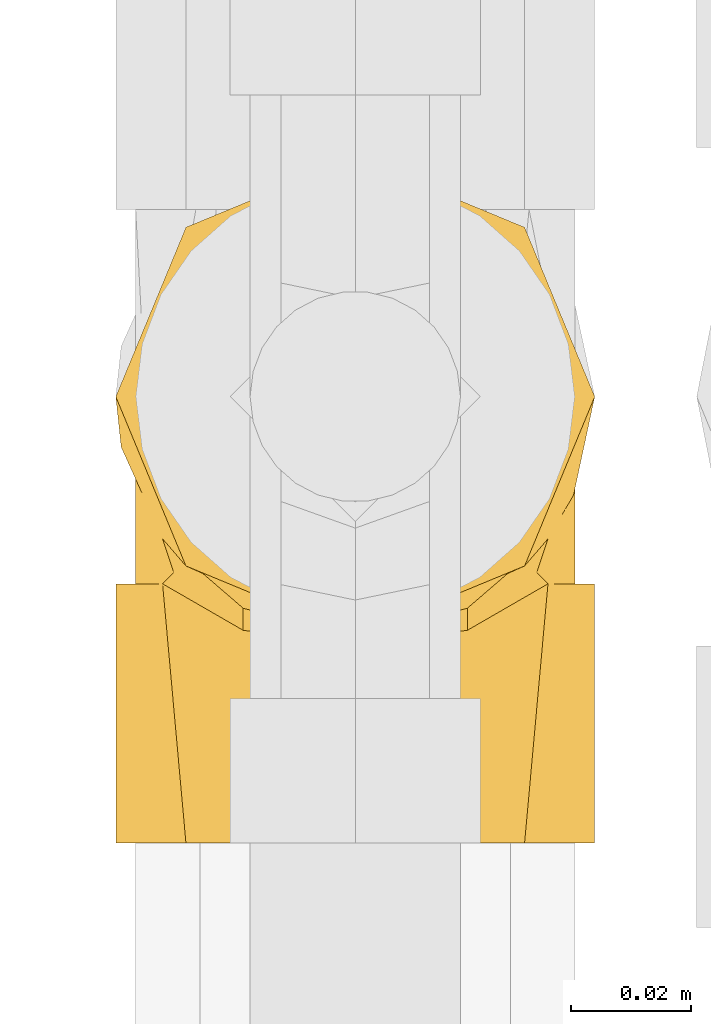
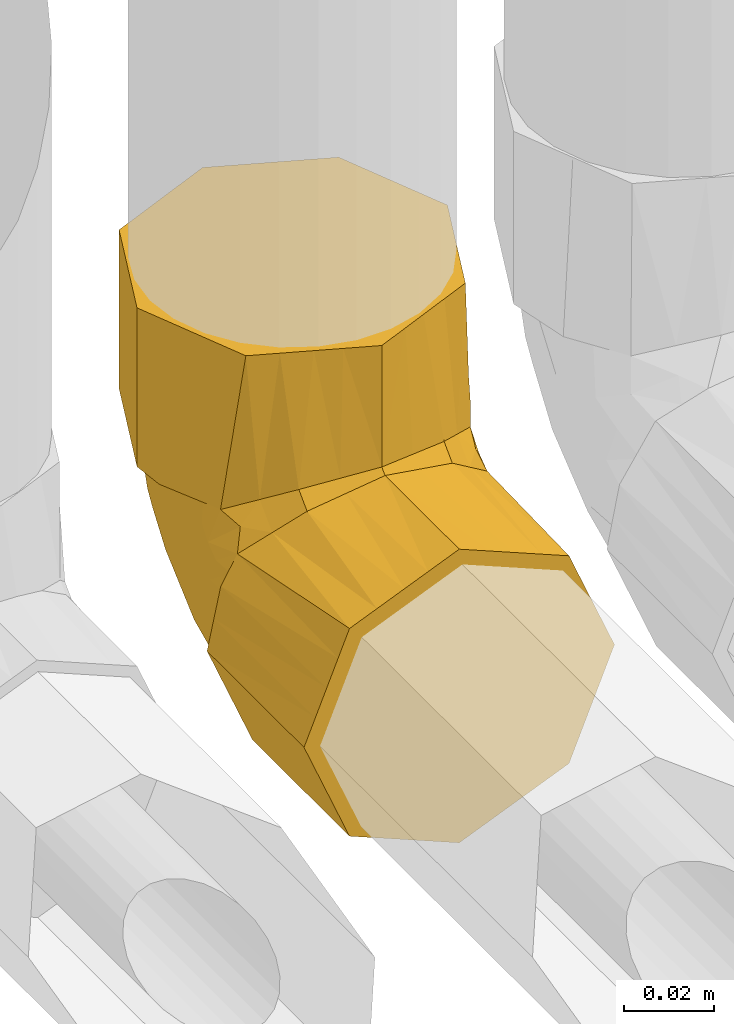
# One storey, part 237 of 652: 1 covering.
"""IFC2X3 building model written with IfcOpenShell, lengths in millimetres."""

from ifc_helpers import new_model, entity, si_unit, converted_unit, direction, frame, origin, place, context, subcontext, project, spatial, faceted_brep, material, type_object, element, save


model = new_model("IFC2X3")

# Units and contexts
model_context = context("Model", 3, precision=0.01, world=frame((0.0, 0.0, 308426.39999999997)), true_north=direction((6.123233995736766e-17, 1.0)))
plan_context = context("Plan", 3, precision=0.01, world=frame((0.0, 0.0, 308426.39999999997)), true_north=direction((6.123233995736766e-17, 1.0)))
body_context = subcontext(model_context, "Body", "Model", "MODEL_VIEW")
ifc_project = project(units=[si_unit("LENGTHUNIT", "METRE", prefix="MILLI"), si_unit("AREAUNIT", "SQUARE_METRE"), si_unit("VOLUMEUNIT", "CUBIC_METRE"), converted_unit("PLANEANGLEUNIT", "DEGREE", entity("IfcPlaneAngleMeasure", 0.017453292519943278), si_unit("PLANEANGLEUNIT", "RADIAN"), dimensions=[0, 0, 0, 0, 0, 0, 0])], contexts=[model_context, plan_context])

# Site, building, storey
site_placement = place(None, origin())
site = spatial("IfcSite", under=ifc_project, at=site_placement, Name="Default", CompositionType="ELEMENT")
building_placement = place(site_placement, origin())
building = spatial("IfcBuilding", under=site, at=building_placement, CompositionType="ELEMENT")
storey_placement = place(building_placement, frame((0.0, 0.0, 1730.6999999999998)))
storey = spatial("IfcBuildingStorey", under=building, at=storey_placement, Name="EG_Produktion_FFB", CompositionType="ELEMENT", Elevation=1730.6999999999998)

# Covering
ifc_material = material(Name="Dämmung - Armaflex-Schlauch")
covering_type = type_object("IfcCoveringType", Name="Rohrdämmung außen:Armaflex-Schlauch", PredefinedType="INSULATION")
covering_placement = place(storey_placement, frame((76838.64672776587, 51563.94410396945, 2358.6467277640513)))
element("IfcCovering", 1, at=covering_placement, inside=storey, type_object=covering_type, material=ifc_material, Name="Rohrdämmung außen:Armaflex-Schlauch", ObjectType="Rohrdämmung außen:Armaflex-Schlauch", PredefinedType="INSULATION", context=body_context, shape_type="Brep", body=[
    faceted_brep([(6.083537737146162, 43.00574999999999, 55.29344606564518), (5.617026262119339, 43.00574999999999, 51.30566939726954), (4.890772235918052, 43.00574999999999, 45.09759303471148), (8.3318644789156, 43.00574999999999, 37.46172977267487), (11.772956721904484, 43.00574999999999, 29.82586651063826), (14.99997398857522, 43.00574999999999, 22.665040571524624), (18.22699125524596, 43.00574999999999, 15.504214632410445), (29.790131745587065, 43.00574999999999, 11.253230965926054), (41.35327223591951, 43.00574999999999, 7.002247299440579), (48.56686113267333, 43.00574999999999, 10.651622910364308), (55.78045002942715, 43.00574999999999, 14.300998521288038), (62.994038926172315, 43.00574999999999, 17.950374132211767), (70.2076278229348, 43.00574999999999, 21.599749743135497), (72.58441730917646, 43.00574999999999, 28.940491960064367), (75.20009477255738, 43.00574999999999, 37.01904249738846), (77.81577223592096, 43.00574999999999, 45.09759303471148), (77.08951820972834, 43.00574999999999, 51.305669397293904), (76.62300673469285, 43.00574999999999, 55.29344606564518), (74.98470757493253, 43.00574999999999, 60.125242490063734), (73.34640841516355, 43.00574999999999, 64.9570389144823), (76.7834442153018, 43.00574999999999, 57.33961263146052), (80.22048001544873, 43.00574999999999, 49.7221863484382), (81.11127223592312, 43.00574999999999, 41.35327223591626), (77.79931566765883, 43.00574999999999, 33.35750177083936), (75.28884793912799, 43.00574999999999, 27.29669653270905), (72.37763579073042, 43.00574999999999, 20.26840868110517), (69.46642364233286, 43.00574999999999, 13.240120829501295), (62.43813579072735, 43.00574999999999, 10.328908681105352), (55.40984793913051, 43.00574999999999, 7.417696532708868), (48.38156008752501, 43.00574999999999, 4.506484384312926), (41.35327223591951, 43.00574999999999, 1.5952722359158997), (33.35750170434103, 43.00574999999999, 4.907228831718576), (27.296696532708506, 43.00574999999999, 7.417696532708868), (20.26840868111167, 43.00574999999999, 10.328908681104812), (13.240120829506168, 43.00574999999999, 13.240120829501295), (10.3289086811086, 43.00574999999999, 20.26840868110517), (7.417696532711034, 43.00574999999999, 27.296696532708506), (4.907228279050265, 43.00574999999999, 33.35750303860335), (1.5952722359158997, 43.00574999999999, 41.35327223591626), (3.3544466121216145, 43.00574999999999, 49.52924681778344), (5.113620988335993, 43.00574999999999, 57.70522139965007), (9.36013605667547, 43.00574999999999, 64.9570389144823), (7.721836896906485, 43.00574999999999, 60.12524249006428), (69.46642364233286, 0.0, 69.46642364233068), (62.43813579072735, 0.0, 72.37763579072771), (55.40984793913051, 0.0, 75.28884793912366), (49.349042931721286, 0.0, 77.79931557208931), (41.35327223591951, 0.0, 81.11127223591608), (33.357503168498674, 0.0, 77.79931624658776), (27.296696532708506, 0.0, 75.28884793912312), (20.26840868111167, 0.0, 72.37763579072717), (13.240120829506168, 0.0, 69.46642364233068), (10.3289086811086, 0.0, 62.43813579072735), (7.417696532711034, 0.0, 55.40984793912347), (4.506484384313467, 0.0, 48.381560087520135), (1.5952722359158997, 0.0, 41.35327223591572), (4.506484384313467, 0.0, 34.32498438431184), (7.417696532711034, 0.0, 27.296696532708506), (10.3289086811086, 0.0, 20.26840868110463), (13.240120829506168, 0.0, 13.240120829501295), (20.26840868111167, 0.0, 10.328908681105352), (27.296696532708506, 0.0, 7.417696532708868), (34.32498438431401, 0.0, 4.506484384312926), (41.35327223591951, 0.0, 1.5952722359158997), (48.38156008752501, 0.0, 4.506484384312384), (55.40984793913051, 0.0, 7.417696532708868), (62.43813579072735, 0.0, 10.328908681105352), (69.46642364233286, 0.0, 13.240120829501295), (74.4873587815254, 0.0, 25.361730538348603), (77.79931550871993, 0.0, 33.35750138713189), (81.11127223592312, 0.0, 41.35327223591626), (78.20006008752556, 0.0, 48.381560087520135), (75.28884793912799, 0.0, 55.40984793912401), (72.37763579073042, 0.0, 62.43813579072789), (66.6493605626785, 39.14313917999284, 70.72483298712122), (41.35327223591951, 32.887345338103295, 81.11127223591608), (50.65279247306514, 34.0839368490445, 78.80194964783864), (59.952312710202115, 35.28052835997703, 76.49262705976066), (55.3025525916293, 34.68223260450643, 77.64728835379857), (16.057183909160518, 39.14313917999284, 70.72483298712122), (32.053751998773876, 34.0839368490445, 78.80194964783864), (22.754231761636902, 35.28052835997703, 76.49262705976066), (37.04480775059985, 33.441725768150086, 80.04136388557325), (1.5952722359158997, 74.08425000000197, 72.43177223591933), (4.907228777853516, 82.0800204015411, 72.43177223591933), (7.417696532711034, 88.14082570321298, 72.43177223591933), (10.3289086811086, 95.16911355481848, 72.43177223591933), (13.240120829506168, 102.19740140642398, 72.43177223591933), (20.26840868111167, 105.10861355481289, 72.43177223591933), (27.296696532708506, 108.01982570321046, 72.43177223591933), (33.357503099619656, 110.53029398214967, 72.43177223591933), (41.35327223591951, 113.84225000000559, 72.43177223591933), (49.34904239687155, 110.53029355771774, 72.43177223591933), (55.40984793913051, 108.01982570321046, 72.43177223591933), (62.43813579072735, 105.10861355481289, 72.43177223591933), (69.46642364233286, 102.19740140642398, 72.43177223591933), (72.37763579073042, 95.16911355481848, 72.43177223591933), (75.28884793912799, 88.14082570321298, 72.43177223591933), (78.20006008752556, 81.11253785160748, 72.43177223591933), (81.11127223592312, 74.08425000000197, 72.43177223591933), (79.3520811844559, 65.90823846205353, 72.43177223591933), (77.59289013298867, 57.73222692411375, 72.43177223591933), (73.34640841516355, 50.48048332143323, 72.43177223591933), (74.98470757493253, 55.31227974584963, 72.43177223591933), (76.62300673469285, 60.14407617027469, 72.43177223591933), (77.08951812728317, 64.13185213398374, 72.43177223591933), (77.45264518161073, 67.23589066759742, 72.43177223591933), (77.81577223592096, 70.33992920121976, 72.43177223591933), (74.48171748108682, 77.73827380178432, 72.43177223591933), (71.14766272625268, 85.13661840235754, 72.43177223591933), (67.81360797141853, 92.53496300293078, 72.43177223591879), (64.47955321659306, 99.93330760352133, 72.43177223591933), (58.69798297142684, 102.05879943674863, 72.43177223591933), (52.916412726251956, 104.18429126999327, 72.43177223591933), (41.35327223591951, 108.4352749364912, 72.43177223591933), (34.139683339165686, 104.78589932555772, 72.43177223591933), (26.926094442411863, 101.1365237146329, 72.43177223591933), (19.712505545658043, 97.48714810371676, 72.43177223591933), (12.498916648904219, 93.83777249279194, 72.43177223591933), (10.596880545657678, 87.9633116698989, 72.43177223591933), (8.694844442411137, 82.08885084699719, 72.43177223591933), (4.890772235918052, 70.33992920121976, 72.43177223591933), (5.253899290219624, 67.23589066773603, 72.43177223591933), (5.617026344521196, 64.1318521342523, 72.43177223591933), (6.083537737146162, 60.14407617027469, 72.43177223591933), (7.721836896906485, 55.31227974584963, 72.43177223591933), (9.36013605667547, 50.48048332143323, 72.43177223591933), (5.923104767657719, 58.097888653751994, 72.43177223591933), (2.486073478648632, 65.71529398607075, 72.43177223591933), (78.20006008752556, 81.11253785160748, 115.43752223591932), (75.28884793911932, 88.14082570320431, 115.43752223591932), (72.37763579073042, 95.16911355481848, 115.43752223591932), (69.46642364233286, 102.19740140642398, 115.43752223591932), (57.34481362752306, 107.21833667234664, 115.43752223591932), (49.349042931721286, 110.53029333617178, 115.43752223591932), (41.35327223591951, 113.84225000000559, 115.43752223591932), (34.32498438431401, 110.93103785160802, 115.43752223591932), (27.296696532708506, 108.01982570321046, 115.43752223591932), (20.26840868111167, 105.10861355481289, 115.43752223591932), (13.240120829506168, 102.19740140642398, 115.43752223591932), (10.3289086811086, 95.16911355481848, 115.43752223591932), (7.417696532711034, 88.14082570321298, 115.43752223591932), (4.506484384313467, 81.11253785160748, 115.43752223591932), (1.5952722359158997, 74.08425000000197, 115.43752223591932), (4.506484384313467, 67.05596214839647, 115.43752223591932), (7.417696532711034, 60.02767429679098, 115.43752223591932), (10.3289086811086, 52.99938644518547, 115.43752223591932), (13.240120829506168, 45.971098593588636, 115.43752223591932), (20.26840868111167, 43.05988644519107, 115.43752223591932), (27.296696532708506, 40.1486742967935, 115.43752223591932), (33.35750137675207, 37.63820673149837, 115.43752223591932), (41.35327223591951, 34.32625000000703, 115.43752223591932), (49.34904132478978, 37.638205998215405, 115.43752223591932), (55.409847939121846, 40.1486742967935, 115.43752223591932), (62.43813579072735, 43.05988644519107, 115.43752223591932), (69.46642364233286, 45.971098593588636, 115.43752223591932), (72.37763579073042, 52.99938644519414, 115.43752223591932), (75.28884793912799, 60.02767429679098, 115.43752223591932), (77.7993155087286, 66.08847915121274, 115.43752223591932), (81.11127223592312, 74.08425000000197, 115.43752223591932), (41.35327223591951, 34.32624999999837, 82.55017689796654), (50.65279247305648, 36.63557258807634, 81.3535853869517), (59.95231271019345, 38.94489517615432, 80.15699387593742), (49.97020104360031, 36.466066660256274, 81.44141605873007), (66.6493605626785, 44.71268924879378, 76.29438305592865), (16.057183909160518, 44.71268924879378, 76.29438305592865), (32.05375199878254, 36.63557258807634, 81.3535853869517), (22.754231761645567, 38.94489517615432, 80.15699387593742), (32.736343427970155, 36.46606666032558, 81.44141605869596), (37.04480783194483, 35.396158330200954, 81.99579647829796), (70.58570371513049, 87.24563107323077, 57.27953829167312), (70.84194655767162, 59.25537915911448, 29.196562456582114), (74.32849001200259, 64.7856822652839, 39.99677644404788), (77.81577223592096, 54.444618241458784, 51.665813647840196), (77.00211431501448, 57.53683977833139, 44.427643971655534), (76.88844933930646, 69.54060567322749, 55.10574679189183), (68.42603953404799, 78.6127307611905, 40.74800020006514), (65.42597622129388, 63.63300022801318, 24.86974949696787), (41.35327223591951, 91.69909945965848, 37.51558616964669), (49.423246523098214, 97.09379966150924, 46.80229075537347), (49.76955400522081, 80.92903244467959, 27.55975639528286), (41.35327223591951, 55.17908736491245, 14.630582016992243), (50.78343827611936, 61.71355754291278, 14.918451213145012), (62.18567496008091, 81.91063946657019, 36.22638004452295), (77.81577223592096, 68.51539346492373, 70.04816151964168), (77.81577223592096, 66.69085772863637, 67.66455080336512), (77.81577223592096, 63.04178625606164, 62.897329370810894), (77.81577223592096, 58.74320224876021, 57.281571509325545), (65.52092940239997, 92.2422534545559, 54.940238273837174), (59.20806438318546, 71.24210235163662, 24.562664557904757), (60.22410783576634, 57.40923450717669, 17.335133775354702), (58.19488232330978, 92.66510975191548, 45.83903622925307), (55.853767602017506, 84.60868936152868, 33.94124595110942), (41.35327223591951, 100.06718719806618, 54.97367920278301), (41.35327223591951, 100.62176107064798, 56.13067021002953), (41.35327223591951, 67.3524247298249, 22.258916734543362), (41.35327223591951, 73.31662804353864, 25.996342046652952), (41.35327223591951, 79.52576209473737, 29.887251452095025), (55.751720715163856, 100.49812847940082, 57.754577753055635), (73.79715375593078, 78.60346314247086, 53.084365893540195), (41.35327223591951, 58.16118902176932, 16.499294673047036), (77.81577223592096, 48.25776996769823, 48.11331321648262), (77.16648559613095, 48.611422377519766, 55.8898031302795), (75.95462844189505, 47.90470472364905, 61.14799943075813), (41.35327223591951, 33.63371593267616, 81.80380630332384), (76.0357200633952, 51.459156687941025, 63.97836606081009), (71.49570768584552, 44.908883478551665, 70.52863846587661), (75.95462822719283, 54.28952252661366, 67.53281820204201), (77.15152320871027, 59.518701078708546, 66.9208805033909), (5.540058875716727, 48.611422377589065, 55.88980313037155), (4.890772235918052, 48.257769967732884, 48.1133132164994), (11.210837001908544, 44.90888338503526, 70.52863882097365), (6.670824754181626, 51.45915593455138, 63.97836681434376), (6.7519160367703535, 47.90470469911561, 61.14799943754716), (4.890772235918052, 58.743202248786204, 57.281571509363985), (6.7519162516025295, 54.28952251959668, 67.53281822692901), (5.555021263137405, 59.51870107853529, 66.92088050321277), (4.890772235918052, 66.69085772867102, 67.66455080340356), (4.890772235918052, 54.444618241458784, 51.665813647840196), (4.890772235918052, 68.51539346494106, 70.04816151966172), (4.890772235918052, 63.041786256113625, 62.89732937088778), (7.90055709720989, 59.61186262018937, 37.54867793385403), (11.144292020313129, 58.14792793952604, 29.753616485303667), (6.907352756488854, 76.41301603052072, 58.23539538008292), (31.821832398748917, 83.37405497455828, 30.21968406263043), (16.763579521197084, 79.87091005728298, 38.43788537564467), (9.117077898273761, 74.44381850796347, 47.150672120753), (14.598856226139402, 86.90253298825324, 50.85120006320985), (5.892051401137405, 66.09863101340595, 50.71304963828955), (5.886693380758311, 55.98858201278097, 42.398132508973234), (15.338625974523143, 67.81026209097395, 29.782072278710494), (22.521459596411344, 86.6462536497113, 39.60413641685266), (31.617498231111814, 98.35278997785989, 49.78456672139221), (22.69544496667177, 96.79734628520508, 54.986101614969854), (9.61944594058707, 83.33506495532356, 58.13081411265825), (24.56861790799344, 64.80279365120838, 19.784818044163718), (21.067876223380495, 74.76137203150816, 29.107014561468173), (16.734184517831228, 55.99524376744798, 21.418901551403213), (33.08278710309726, 68.64794002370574, 18.405512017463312)], [[[0, 1, 2, 3, 4, 5, 6, 7, 8, 9, 10, 11, 12, 13, 14, 15, 16, 17, 18, 19, 20, 21, 22, 23, 24, 25, 26, 27, 28, 29, 30, 31, 32, 33, 34, 35, 36, 37, 38, 39, 40, 41, 42]], [[43, 44, 45, 46, 47, 48, 49, 50, 51, 52, 53, 54, 55, 56, 57, 58, 59, 60, 61, 62, 63, 64, 65, 66, 67, 68, 69, 70, 71, 72, 73]], [[44, 43, 74]], [[75, 47, 46]], [[76, 75, 46]], [[45, 77, 78, 76]], [[44, 74, 77]], [[72, 20, 73]], [[71, 21, 72]], [[43, 19, 74]], [[77, 45, 44]], [[72, 21, 20]], [[71, 22, 21]], [[45, 76, 46]], [[71, 70, 22]], [[73, 20, 19]], [[19, 43, 73]], [[23, 22, 70, 69, 68, 67, 26, 25, 24]], [[26, 67, 66, 65, 64, 63, 30, 29, 28, 27]], [[38, 37, 36, 35, 34, 59, 58, 57, 56, 55]], [[30, 63, 62, 61, 60, 59, 34, 33, 32, 31]], [[53, 40, 39]], [[50, 79, 51]], [[39, 54, 53]], [[41, 52, 51]], [[40, 52, 41]], [[80, 49, 48]], [[49, 80, 81]], [[55, 54, 38]], [[48, 75, 82, 80]], [[38, 54, 39]], [[79, 50, 81]], [[52, 40, 53]], [[48, 47, 75]], [[50, 49, 81]], [[79, 41, 51]], [[83, 84, 85, 86, 87, 88, 89, 90, 91, 92, 93, 94, 95, 96, 97, 98, 99, 100, 101, 102, 103, 104, 105, 106, 107, 108, 109, 110, 111, 112, 113, 114, 115, 116, 117, 118, 119, 120, 121, 122, 123, 124, 125, 126, 127, 128]], [[129, 130, 131, 132, 133, 134, 135, 136, 137, 138, 139, 140, 141, 142, 143, 144, 145, 146, 147, 148, 149, 150, 151, 152, 153, 154, 155, 156, 157, 158, 159]], [[135, 134, 133, 132, 95, 94, 93, 92, 91]], [[95, 132, 131, 130, 129, 159, 99, 98, 97, 96]], [[159, 158, 157, 100]], [[101, 156, 102]], [[99, 159, 100]], [[101, 100, 157]], [[152, 151, 160]], [[102, 156, 155]], [[153, 161, 162]], [[161, 153, 152]], [[152, 160, 163, 161]], [[154, 164, 155]], [[164, 154, 162]], [[156, 101, 157]], [[154, 153, 162]], [[164, 102, 155]], [[148, 147, 165]], [[149, 166, 150]], [[166, 149, 167]], [[160, 151, 150]], [[148, 165, 167]], [[145, 127, 146]], [[144, 128, 145]], [[147, 126, 165]], [[167, 149, 148]], [[145, 128, 127]], [[144, 83, 128]], [[150, 166, 168, 169, 160]], [[144, 143, 83]], [[146, 127, 126]], [[126, 147, 146]], [[91, 90, 89, 88, 87, 139, 138, 137, 136, 135]], [[141, 140, 139, 87, 86, 85, 84, 83, 143, 142]], [[109, 170, 110]], [[13, 171, 172]], [[14, 13, 172]], [[173, 174, 175]], [[176, 171, 177]], [[15, 14, 174]], [[178, 179, 180]], [[9, 181, 182]], [[172, 175, 174]], [[13, 12, 171]], [[12, 11, 177]], [[176, 177, 183]], [[175, 107, 184, 185, 186, 187, 173]], [[188, 170, 176]], [[176, 172, 171]], [[189, 190, 182]], [[11, 10, 190]], [[177, 11, 190]], [[170, 188, 110]], [[191, 183, 192]], [[179, 178, 193, 194]], [[182, 190, 10]], [[182, 195, 180]], [[177, 190, 189]], [[182, 10, 9]], [[180, 195, 196, 197, 178]], [[177, 189, 183]], [[177, 171, 12]], [[113, 179, 194]], [[189, 182, 180]], [[112, 111, 198, 113]], [[198, 111, 188]], [[194, 114, 113]], [[179, 191, 192]], [[199, 175, 172]], [[199, 108, 175]], [[172, 176, 199]], [[188, 111, 110]], [[199, 170, 109]], [[183, 188, 176]], [[108, 199, 109]], [[188, 191, 198]], [[108, 107, 175]], [[176, 170, 199]], [[192, 189, 180]], [[188, 183, 191]], [[189, 192, 183]], [[179, 192, 180]], [[181, 9, 8]], [[182, 181, 200, 195]], [[191, 179, 198]], [[179, 113, 198]], [[174, 173, 201, 15]], [[172, 174, 14]], [[173, 202, 201]], [[173, 187, 203]], [[18, 203, 19]], [[201, 17, 16, 15]], [[204, 76, 163]], [[74, 164, 162, 77]], [[163, 76, 78, 77, 162, 161]], [[205, 102, 206]], [[206, 164, 74]], [[106, 105, 104, 185, 184, 107]], [[205, 207, 102]], [[186, 185, 208, 187]], [[204, 75, 76]], [[163, 160, 204]], [[205, 206, 19]], [[164, 206, 102]], [[203, 205, 19]], [[19, 206, 74]], [[201, 202, 17]], [[17, 202, 18]], [[203, 202, 173]], [[18, 202, 203]], [[102, 207, 103]], [[103, 208, 104]], [[207, 205, 187]], [[208, 103, 207]], [[208, 185, 104]], [[187, 208, 207]], [[203, 187, 205]], [[204, 160, 169]], [[209, 210, 0]], [[169, 168, 166, 167, 81, 80, 82]], [[41, 211, 212]], [[1, 0, 210, 2]], [[213, 212, 214]], [[204, 169, 82]], [[79, 165, 211]], [[126, 125, 215]], [[212, 211, 126]], [[204, 82, 75]], [[167, 165, 79, 81]], [[216, 124, 217]], [[218, 209, 213]], [[122, 121, 219, 217, 124, 123]], [[41, 79, 211]], [[211, 165, 126]], [[209, 0, 42]], [[125, 124, 216]], [[126, 215, 212]], [[125, 216, 215]], [[220, 214, 216, 217]], [[213, 42, 41]], [[212, 213, 41]], [[210, 209, 218]], [[214, 212, 215]], [[209, 42, 213]], [[215, 216, 214]], [[218, 213, 214]], [[4, 221, 222]], [[223, 121, 120]], [[224, 178, 197, 196]], [[225, 226, 227]], [[228, 226, 221]], [[229, 218, 228]], [[222, 226, 230]], [[231, 232, 224]], [[3, 229, 221]], [[233, 232, 231]], [[234, 223, 120]], [[229, 2, 210, 218]], [[224, 235, 236]], [[4, 3, 221]], [[228, 218, 214, 220, 217, 219, 121]], [[237, 222, 230]], [[6, 235, 7]], [[235, 6, 237]], [[238, 200, 7]], [[228, 223, 226]], [[224, 238, 235]], [[234, 226, 223]], [[227, 117, 233]], [[193, 232, 115]], [[224, 232, 178]], [[115, 114, 194, 193]], [[235, 237, 236]], [[238, 224, 196]], [[226, 222, 221]], [[222, 237, 5]], [[5, 237, 6]], [[5, 4, 222]], [[237, 230, 236]], [[7, 200, 181, 8]], [[7, 235, 238]], [[238, 196, 195, 200]], [[227, 118, 117]], [[193, 178, 232]], [[231, 236, 225]], [[233, 117, 116]], [[232, 233, 116]], [[227, 233, 231]], [[229, 3, 2]], [[228, 221, 229]], [[121, 223, 228]], [[119, 118, 234, 120]], [[234, 118, 227]], [[227, 226, 234]], [[232, 116, 115]], [[225, 236, 230]], [[224, 236, 231]], [[226, 225, 230]], [[231, 225, 227]]]),
])

save(model, "model.ifc")
